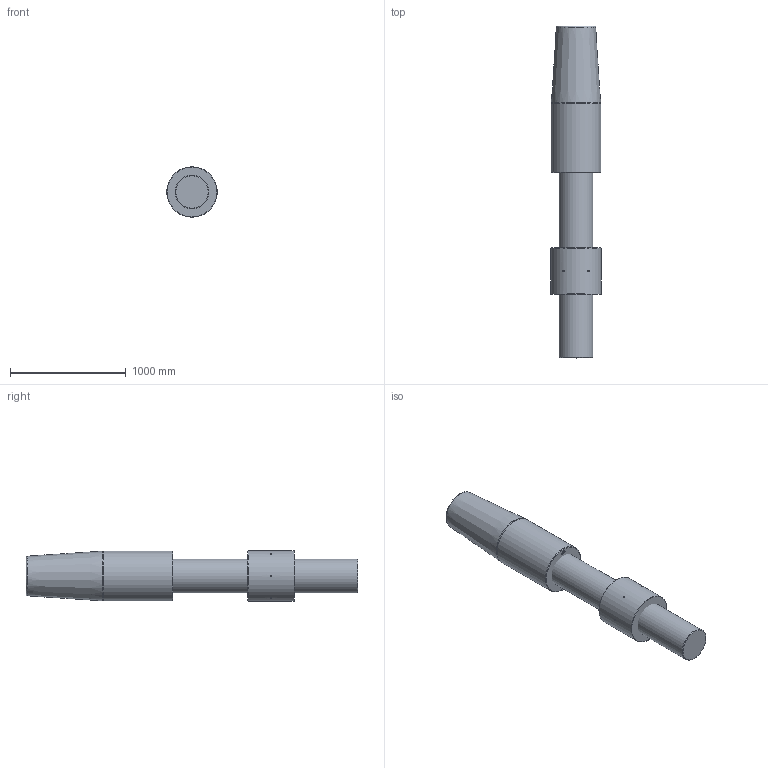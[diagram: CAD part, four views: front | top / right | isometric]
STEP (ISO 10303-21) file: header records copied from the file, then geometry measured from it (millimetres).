
FILE_DESCRIPTION(/* description */ (''),/* implementation_level */ '2;1');
FILE_NAME(/* name */ 'C:\Users\ranca\Desktop\CYM\ARRANGEMENT\CYM148 52 061 0.stp',/* time_stamp */ '2021-04-23T22:01:24+02:00',/* author */ ('ranca'),/* organization */ (''),/* preprocessor_version */ 'ST-DEVELOPER v16.13',/* originating_system */ 'Autodesk Inventor 2018',/* authorisation */ '');
FILE_SCHEMA (('AUTOMOTIVE_DESIGN { 1 0 10303 214 3 1 1 }'));
Length unit declared in the file: millimetre
Products named in the file (4): CYM148-52-061-0; CYM012-52-061-0_ROD; CYC148 52 065 0_CYL SOK_RH; CYM148-41-051-0
Assembly tree (3 placements, depth 2):
  CYM148-52-061-0
    CYM012-52-061-0_ROD
    CYC148 52 065 0_CYL SOK_RH
    CYM148-41-051-0
Bounding box: 435 x 2866 x 435 mm (x, y, z)
Volume: 356633898.3 mm3; surface area: 4642275.8 mm2
Topology: 3 solids, 3 shells, 516 faces, 1378 edges, 916 vertices
Faces by surface type: plane 274, bspline 220, cone 11, cylinder 9, torus 2
Full cylindrical faces by diameter (mm): 15 x6, 290 x1, 430 x1, 435 x1
Entity records: 17233 total; most frequent: CARTESIAN_POINT 5867, ORIENTED_EDGE 2698, DIRECTION 1526, EDGE_CURVE 1349, VERTEX_POINT 910, LINE 876, VECTOR 876, EDGE_LOOP 587
